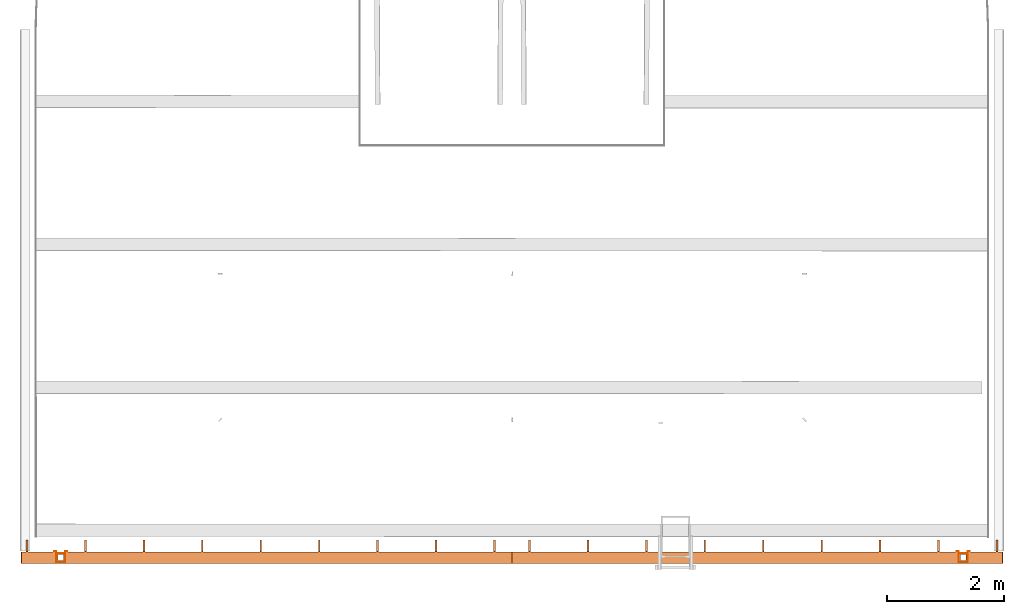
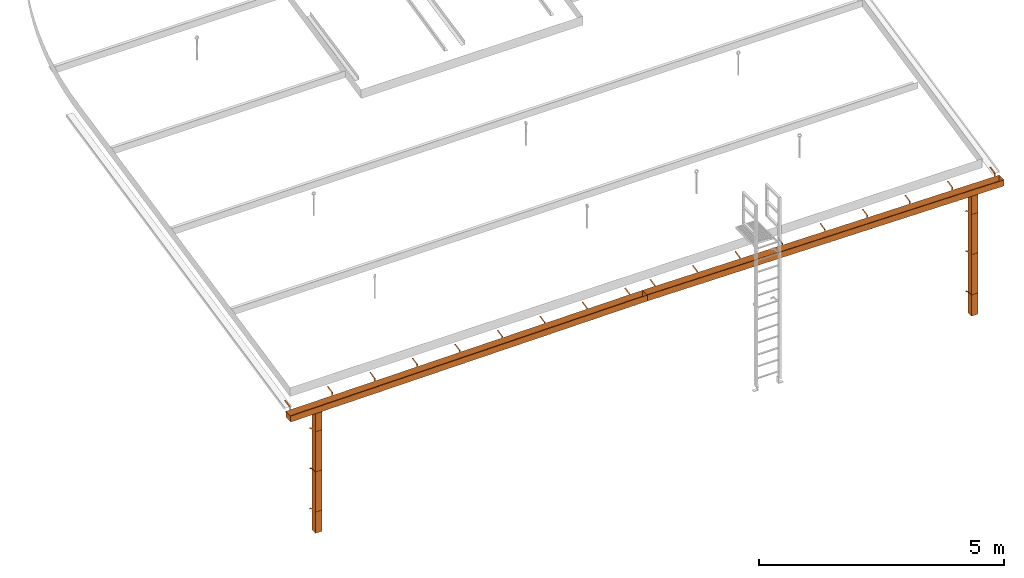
# One storey, part 7 of 7: 4 proxies.
"""IFC4 building model written with IfcOpenShell, lengths in millimetres."""

from ifc_helpers import new_model, entity, si_unit, converted_unit, derived_unit, direction, frame, origin_with_axes, place, context, subcontext, project, spatial, polygons, type_object, element, save


model = new_model("IFC4")

# Units and contexts
model_context = context("Model", 3, precision=0.01, world=origin_with_axes(), true_north=direction((0.0, 1.0)))
body_context = subcontext(model_context, "Body", "Model", "MODEL_VIEW")
ifc_project = project(units=[si_unit("LENGTHUNIT", "METRE", prefix="MILLI"), si_unit("AREAUNIT", "SQUARE_METRE"), si_unit("VOLUMEUNIT", "CUBIC_METRE"), converted_unit("PLANEANGLEUNIT", "DEGREE", entity("IfcPlaneAngleMeasure", 0.0174532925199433), si_unit("PLANEANGLEUNIT", "RADIAN"), dimensions=[0, 0, 0, 0, 0, 0, 0]), converted_unit("TIMEUNIT", "Year", entity("IfcTimeMeasure", 31557600.0), si_unit("TIMEUNIT", "SECOND"), dimensions=[0, 0, 1, 0, 0, 0, 0]), si_unit("MASSUNIT", "GRAM", prefix="KILO"), si_unit("THERMODYNAMICTEMPERATUREUNIT", "DEGREE_CELSIUS"), si_unit("LUMINOUSINTENSITYUNIT", "LUMEN"), si_unit("ENERGYUNIT", "JOULE", prefix="MEGA"), derived_unit("THERMALCONDUCTANCEUNIT", [(si_unit("POWERUNIT", "WATT"), 1), (si_unit("LENGTHUNIT", "METRE"), -1), (si_unit("THERMODYNAMICTEMPERATUREUNIT", "KELVIN"), -1)]), derived_unit("SPECIFICHEATCAPACITYUNIT", [(si_unit("ENERGYUNIT", "JOULE"), 1), (si_unit("MASSUNIT", "GRAM", prefix="KILO"), -1), (si_unit("THERMODYNAMICTEMPERATUREUNIT", "KELVIN"), -1)]), derived_unit("MASSDENSITYUNIT", [(si_unit("MASSUNIT", "GRAM", prefix="KILO"), 1), (si_unit("VOLUMEUNIT", "CUBIC_METRE"), -1)])], contexts=[model_context])

# Site, building, storey
site_placement = place(None, origin_with_axes())
site = spatial("IfcSite", under=ifc_project, at=site_placement, Name="Exteriér", CompositionType="ELEMENT")
building_placement = place(site_placement, origin_with_axes())
building = spatial("IfcBuilding", under=site, at=building_placement, Name="Univerzitní lezecké centrum", CompositionType="ELEMENT")
storey_placement = place(building_placement, frame((0.0, 0.0, 12800.0), z_axis=(0.0, 0.0, 1.0), x_axis=(1.0, 0.0, 0.0)))
storey = spatial("IfcBuildingStorey", under=building, at=storey_placement, Name="Střecha", CompositionType="ELEMENT", Elevation=12800.0)

# Proxies
building_element_proxy_type_1 = type_object("IfcBuildingElementProxyType", Name="Okap 27", PredefinedType="NOTDEFINED")
proxy_1_placement = place(storey_placement, frame((2449.851648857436, -609.9999999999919, 7.154921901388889), z_axis=(0.0, 0.0, 1.0), x_axis=(1.0, 0.0, 0.0)))
element("IfcBuildingElementProxy", 1, at=proxy_1_placement, inside=storey, type_object=building_element_proxy_type_1, Name="KV07", PredefinedType="NOTDEFINED", context=body_context, shape_type="Tessellation", body=[
    polygons([(-1.308980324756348, 100.0, -149.9942884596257), (-1.308980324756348, -100.0, -149.9942884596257), (8398.691069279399, -99.9999999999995, -223.2999783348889), (8398.691069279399, 100.0000000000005, -223.2999783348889), (7773.395021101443, 50.0, -217.843102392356), (7773.395021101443, -50.0, -217.843102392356), (7673.398828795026, -50.0, -216.9704488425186), (7673.398828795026, 50.0, -216.9704488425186), (0.0, -100.0, 0.0), (8400.000049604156, -99.9999999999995, -73.30568987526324), (8400.000049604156, 100.0000000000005, -73.30568987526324), (0.0, 100.0, 0.0)], [[[1, 2, 3, 4], [5, 6, 7, 8]], [[3, 2, 9, 10]], [[11, 12, 1, 4]]], closed=False),
    polygons([(285.0, -104.0, -0.4871573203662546), (285.0, -104.0, -154.7546751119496), (315.0, -104.0, -154.7546751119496), (314.9999999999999, -104.0, -0.4871573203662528), (285.0, 104.0, -154.7546751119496), (315.0, 104.0, -154.7546751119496), (285.0, 104.0, -0.4871573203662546), (315.0, 104.0, -0.4871573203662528)], [[[1, 2, 3, 4]], [[2, 5, 6, 3]], [[5, 7, 8, 6]]], closed=False),
    polygons([(285.0, 104.0, -0.4871573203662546), (285.0, 104.0, 2.130903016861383), (314.9999999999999, 104.0, 2.130903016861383), (314.9999999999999, 104.0, -0.4871573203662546)], [[[1, 2, 3, 4]]], closed=False),
    polygons([(285.0, 104.0, 2.130903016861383), (285.0, 299.6295201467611, 43.71324118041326), (314.9999999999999, 299.6295201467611, 43.71324118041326), (314.9999999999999, 104.0, 2.130903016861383)], [[[1, 2, 3, 4]]], closed=False),
    polygons([(1285.0, -104.0, -9.214025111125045), (1285.0, -104.0, -163.4815429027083), (1315.0, -104.0, -163.4815429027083), (1315.0, -104.0, -9.214025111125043), (1285.0, 104.0, -163.4815429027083), (1315.0, 104.0, -163.4815429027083), (1285.0, 104.0, -9.214025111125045), (1315.0, 104.0, -9.214025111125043)], [[[1, 2, 3, 4]], [[2, 5, 6, 3]], [[5, 7, 8, 6]]], closed=False),
    polygons([(1285.0, 104.0, -9.214025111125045), (1285.0, 104.0, 2.130903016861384), (1315.0, 104.0, 2.130903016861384), (1315.0, 104.0, -9.214025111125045)], [[[1, 2, 3, 4]]], closed=False),
    polygons([(1285.0, 104.0, 2.130903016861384), (1285.0, 299.6295201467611, 43.71324118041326), (1315.0, 299.6295201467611, 43.71324118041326), (1315.0, 104.0, 2.130903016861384)], [[[1, 2, 3, 4]]], closed=False),
    polygons([(2285.0, -104.0, -17.94089290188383), (2285.0, -104.0, -172.2084106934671), (2315.0, -104.0, -172.2084106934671), (2315.0, -104.0, -17.94089290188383), (2285.0, 104.0, -172.2084106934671), (2315.0, 104.0, -172.2084106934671), (2285.0, 104.0, -17.94089290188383), (2315.0, 104.0, -17.94089290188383)], [[[1, 2, 3, 4]], [[2, 5, 6, 3]], [[5, 7, 8, 6]]], closed=False),
    polygons([(2285.0, 104.0, -17.94089290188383), (2285.0, 104.0, 2.130903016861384), (2315.0, 104.0, 2.130903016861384), (2315.0, 104.0, -17.94089290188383)], [[[1, 2, 3, 4]]], closed=False),
    polygons([(2285.0, 104.0, 2.130903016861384), (2285.0, 299.6295201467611, 43.71324118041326), (2315.0, 299.6295201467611, 43.71324118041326), (2315.0, 104.0, 2.130903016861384)], [[[1, 2, 3, 4]]], closed=False),
    polygons([(3285.0, -104.0, -26.66776069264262), (3285.0, -104.0, -180.9352784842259), (3315.0, -104.0, -180.9352784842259), (3315.0, -104.0, -26.66776069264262), (3285.0, 104.0, -180.9352784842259), (3315.0, 104.0, -180.9352784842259), (3285.0, 104.0, -26.66776069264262), (3315.0, 104.0, -26.66776069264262)], [[[1, 2, 3, 4]], [[2, 5, 6, 3]], [[5, 7, 8, 6]]], closed=False),
    polygons([(3285.0, 104.0, -26.66776069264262), (3285.0, 104.0, 2.130903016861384), (3315.0, 104.0, 2.130903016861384), (3315.0, 104.0, -26.66776069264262)], [[[1, 2, 3, 4]]], closed=False),
    polygons([(3285.0, 104.0, 2.130903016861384), (3285.0, 299.6295201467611, 43.71324118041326), (3315.0, 299.6295201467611, 43.71324118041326), (3315.0, 104.0, 2.130903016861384)], [[[1, 2, 3, 4]]], closed=False),
    polygons([(4285.0, -104.0, -35.39462848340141), (4285.0, -104.0, -189.6621462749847), (4315.0, -104.0, -189.6621462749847), (4315.0, -104.0, -35.39462848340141), (4285.0, 104.0, -189.6621462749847), (4315.0, 104.0, -189.6621462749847), (4285.0, 104.0, -35.39462848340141), (4315.0, 104.0, -35.39462848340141)], [[[1, 2, 3, 4]], [[2, 5, 6, 3]], [[5, 7, 8, 6]]], closed=False),
    polygons([(4285.0, 104.0, -35.39462848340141), (4285.0, 104.0, 2.13090301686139), (4315.0, 104.0, 2.13090301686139), (4315.0, 104.0, -35.39462848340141)], [[[1, 2, 3, 4]]], closed=False),
    polygons([(4285.0, 104.0, 2.13090301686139), (4285.0, 299.6295201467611, 43.71324118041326), (4315.0, 299.6295201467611, 43.71324118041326), (4315.0, 104.0, 2.13090301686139)], [[[1, 2, 3, 4]]], closed=False),
    polygons([(5285.0, -104.0, -44.1214962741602), (5285.0, -104.0, -198.3890140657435), (5315.0, -104.0, -198.3890140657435), (5315.0, -104.0, -44.1214962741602), (5285.0, 104.0, -198.3890140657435), (5315.0, 104.0, -198.3890140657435), (5285.0, 104.0, -44.1214962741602), (5315.0, 104.0, -44.1214962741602)], [[[1, 2, 3, 4]], [[2, 5, 6, 3]], [[5, 7, 8, 6]]], closed=False),
    polygons([(5285.0, 104.0, -44.1214962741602), (5285.0, 104.0, 2.13090301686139), (5315.0, 104.0, 2.13090301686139), (5315.0, 104.0, -44.1214962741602)], [[[1, 2, 3, 4]]], closed=False),
    polygons([(5285.0, 104.0, 2.13090301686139), (5285.0, 299.6295201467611, 43.71324118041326), (5315.0, 299.6295201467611, 43.71324118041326), (5315.0, 104.0, 2.13090301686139)], [[[1, 2, 3, 4]]], closed=False),
    polygons([(6285.0, -104.0, -52.84836406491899), (6285.0, -104.0, -207.1158818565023), (6315.0, -104.0, -207.1158818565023), (6315.0, -104.0, -52.84836406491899), (6285.0, 104.0, -207.1158818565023), (6315.0, 104.0, -207.1158818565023), (6285.0, 104.0, -52.84836406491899), (6315.0, 104.0, -52.84836406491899)], [[[1, 2, 3, 4]], [[2, 5, 6, 3]], [[5, 7, 8, 6]]], closed=False),
    polygons([(6285.0, 104.0, -52.84836406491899), (6285.0, 104.0, 2.13090301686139), (6315.0, 104.0, 2.13090301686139), (6315.0, 104.0, -52.84836406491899)], [[[1, 2, 3, 4]]], closed=False),
    polygons([(6285.0, 104.0, 2.13090301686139), (6285.0, 299.6295201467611, 43.71324118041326), (6315.0, 299.6295201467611, 43.71324118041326), (6315.0, 104.0, 2.13090301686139)], [[[1, 2, 3, 4]]], closed=False),
    polygons([(7285.0, -104.0, -61.57523185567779), (7285.0, -104.0, -215.8427496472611), (7315.0, -104.0, -215.8427496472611), (7315.0, -104.0, -61.57523185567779), (7285.0, 104.0, -215.8427496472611), (7315.0, 104.0, -215.8427496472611), (7285.0, 104.0, -61.57523185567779), (7315.0, 104.0, -61.57523185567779)], [[[1, 2, 3, 4]], [[2, 5, 6, 3]], [[5, 7, 8, 6]]], closed=False),
    polygons([(7285.0, 104.0, -61.57523185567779), (7285.0, 104.0, 2.130903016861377), (7315.0, 104.0, 2.130903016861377), (7315.0, 104.0, -61.57523185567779)], [[[1, 2, 3, 4]]], closed=False),
    polygons([(7285.0, 104.0, 2.130903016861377), (7285.0, 299.6295201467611, 43.71324118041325), (7315.0, 299.6295201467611, 43.71324118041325), (7315.0, 104.0, 2.130903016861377)], [[[1, 2, 3, 4]]], closed=False),
    polygons([(8285.0, -104.0, -70.30209964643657), (8285.0, -104.0, -224.5696174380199), (8315.0, -104.0, -224.5696174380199), (8315.0, -104.0, -70.30209964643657), (8285.0, 104.0, -224.5696174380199), (8315.0, 104.0, -224.5696174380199), (8285.0, 104.0, -70.30209964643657), (8315.0, 104.0, -70.30209964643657)], [[[1, 2, 3, 4]], [[2, 5, 6, 3]], [[5, 7, 8, 6]]], closed=False),
    polygons([(8285.0, 104.0, -70.30209964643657), (8285.0, 104.0, 2.13090301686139), (8315.0, 104.0, 2.13090301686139), (8315.0, 104.0, -70.30209964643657)], [[[1, 2, 3, 4]]], closed=False),
    polygons([(8285.0, 104.0, 2.13090301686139), (8285.0, 299.6295201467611, 43.71324118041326), (8315.0, 299.6295201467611, 43.71324118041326), (8315.0, 104.0, 2.13090301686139)], [[[1, 2, 3, 4]]], closed=False),
    polygons([(0.0, 100.0, 0.0), (-1.308980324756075, 100.0, -149.9942884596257), (-1.308980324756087, -100.0, -149.9942884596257), (0.0, -100.0, 0.0)], [[[1, 2, 3, 4]]], closed=False),
    polygons([(8400.000049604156, 100.0, -73.30568987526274), (8398.691069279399, 100.0, -223.2999783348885), (8398.691069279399, -100.0, -223.2999783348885), (8400.000049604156, -100.0, -73.30568987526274)], [[[1, 2, 3, 4]]], closed=False),
])
proxy_2_placement = place(storey_placement, frame((2449.851648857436, -609.9999999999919, 7.154921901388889), z_axis=(0.0, 0.0, 1.0), x_axis=(1.0, 0.0, 0.0)))
element("IfcBuildingElementProxy", 2, at=proxy_2_placement, inside=storey, type_object=building_element_proxy_type_1, Name="KV07", PredefinedType="NOTDEFINED", context=body_context, shape_type="Tessellation", body=[
    polygons([(1.308980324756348, 100.0, -149.9942884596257), (-8398.691069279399, 100.0000000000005, -223.2999783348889), (-8398.691069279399, -99.9999999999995, -223.2999783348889), (1.308980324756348, -100.0, -149.9942884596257), (-7773.395021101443, 50.0, -217.843102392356), (-7673.398828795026, 50.0, -216.9704488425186), (-7673.398828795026, -50.0, -216.9704488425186), (-7773.395021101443, -50.0, -217.843102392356), (-8400.000049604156, 100.0000000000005, -73.30568987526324), (0.0, 100.0, 0.0), (-8400.000049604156, -99.9999999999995, -73.30568987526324), (0.0, -100.0, 0.0)], [[[1, 2, 3, 4], [5, 6, 7, 8]], [[9, 2, 1, 10]], [[3, 11, 12, 4]]], closed=False),
    polygons([(-285.0, -104.0, -0.4871573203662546), (-314.9999999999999, -104.0, -0.4871573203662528), (-315.0, -104.0, -154.7546751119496), (-285.0, -104.0, -154.7546751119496), (-315.0, 104.0, -154.7546751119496), (-285.0, 104.0, -154.7546751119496), (-315.0, 104.0, -0.4871573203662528), (-285.0, 104.0, -0.4871573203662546)], [[[1, 2, 3, 4]], [[4, 3, 5, 6]], [[6, 5, 7, 8]]], closed=False),
    polygons([(-285.0, 104.0, -0.4871573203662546), (-314.9999999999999, 104.0, -0.4871573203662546), (-314.9999999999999, 104.0, 2.130903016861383), (-285.0, 104.0, 2.130903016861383)], [[[1, 2, 3, 4]]], closed=False),
    polygons([(-285.0, 104.0, 2.130903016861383), (-314.9999999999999, 104.0, 2.130903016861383), (-314.9999999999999, 299.6295201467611, 43.71324118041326), (-285.0, 299.6295201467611, 43.71324118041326)], [[[1, 2, 3, 4]]], closed=False),
    polygons([(-1285.0, -104.0, -9.214025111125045), (-1315.0, -104.0, -9.214025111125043), (-1315.0, -104.0, -163.4815429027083), (-1285.0, -104.0, -163.4815429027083), (-1315.0, 104.0, -163.4815429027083), (-1285.0, 104.0, -163.4815429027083), (-1315.0, 104.0, -9.214025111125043), (-1285.0, 104.0, -9.214025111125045)], [[[1, 2, 3, 4]], [[4, 3, 5, 6]], [[6, 5, 7, 8]]], closed=False),
    polygons([(-1285.0, 104.0, -9.214025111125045), (-1315.0, 104.0, -9.214025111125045), (-1315.0, 104.0, 2.130903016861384), (-1285.0, 104.0, 2.130903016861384)], [[[1, 2, 3, 4]]], closed=False),
    polygons([(-1285.0, 104.0, 2.130903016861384), (-1315.0, 104.0, 2.130903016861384), (-1315.0, 299.6295201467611, 43.71324118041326), (-1285.0, 299.6295201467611, 43.71324118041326)], [[[1, 2, 3, 4]]], closed=False),
    polygons([(-2285.0, -104.0, -17.94089290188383), (-2315.0, -104.0, -17.94089290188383), (-2315.0, -104.0, -172.2084106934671), (-2285.0, -104.0, -172.2084106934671), (-2315.0, 104.0, -172.2084106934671), (-2285.0, 104.0, -172.2084106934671), (-2315.0, 104.0, -17.94089290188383), (-2285.0, 104.0, -17.94089290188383)], [[[1, 2, 3, 4]], [[4, 3, 5, 6]], [[6, 5, 7, 8]]], closed=False),
    polygons([(-2285.0, 104.0, -17.94089290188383), (-2315.0, 104.0, -17.94089290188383), (-2315.0, 104.0, 2.130903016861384), (-2285.0, 104.0, 2.130903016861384)], [[[1, 2, 3, 4]]], closed=False),
    polygons([(-2285.0, 104.0, 2.130903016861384), (-2315.0, 104.0, 2.130903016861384), (-2315.0, 299.6295201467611, 43.71324118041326), (-2285.0, 299.6295201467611, 43.71324118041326)], [[[1, 2, 3, 4]]], closed=False),
    polygons([(-3285.0, -104.0, -26.66776069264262), (-3315.0, -104.0, -26.66776069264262), (-3315.0, -104.0, -180.9352784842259), (-3285.0, -104.0, -180.9352784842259), (-3315.0, 104.0, -180.9352784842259), (-3285.0, 104.0, -180.9352784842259), (-3315.0, 104.0, -26.66776069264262), (-3285.0, 104.0, -26.66776069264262)], [[[1, 2, 3, 4]], [[4, 3, 5, 6]], [[6, 5, 7, 8]]], closed=False),
    polygons([(-3285.0, 104.0, -26.66776069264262), (-3315.0, 104.0, -26.66776069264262), (-3315.0, 104.0, 2.130903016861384), (-3285.0, 104.0, 2.130903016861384)], [[[1, 2, 3, 4]]], closed=False),
    polygons([(-3285.0, 104.0, 2.130903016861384), (-3315.0, 104.0, 2.130903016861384), (-3315.0, 299.6295201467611, 43.71324118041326), (-3285.0, 299.6295201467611, 43.71324118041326)], [[[1, 2, 3, 4]]], closed=False),
    polygons([(-4285.0, -104.0, -35.39462848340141), (-4315.0, -104.0, -35.39462848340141), (-4315.0, -104.0, -189.6621462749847), (-4285.0, -104.0, -189.6621462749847), (-4315.0, 104.0, -189.6621462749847), (-4285.0, 104.0, -189.6621462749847), (-4315.0, 104.0, -35.39462848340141), (-4285.0, 104.0, -35.39462848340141)], [[[1, 2, 3, 4]], [[4, 3, 5, 6]], [[6, 5, 7, 8]]], closed=False),
    polygons([(-4285.0, 104.0, -35.39462848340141), (-4315.0, 104.0, -35.39462848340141), (-4315.0, 104.0, 2.13090301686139), (-4285.0, 104.0, 2.13090301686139)], [[[1, 2, 3, 4]]], closed=False),
    polygons([(-4285.0, 104.0, 2.13090301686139), (-4315.0, 104.0, 2.13090301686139), (-4315.0, 299.6295201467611, 43.71324118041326), (-4285.0, 299.6295201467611, 43.71324118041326)], [[[1, 2, 3, 4]]], closed=False),
    polygons([(-5285.0, -104.0, -44.1214962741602), (-5315.0, -104.0, -44.1214962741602), (-5315.0, -104.0, -198.3890140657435), (-5285.0, -104.0, -198.3890140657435), (-5315.0, 104.0, -198.3890140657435), (-5285.0, 104.0, -198.3890140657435), (-5315.0, 104.0, -44.1214962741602), (-5285.0, 104.0, -44.1214962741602)], [[[1, 2, 3, 4]], [[4, 3, 5, 6]], [[6, 5, 7, 8]]], closed=False),
    polygons([(-5285.0, 104.0, -44.1214962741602), (-5315.0, 104.0, -44.1214962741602), (-5315.0, 104.0, 2.13090301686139), (-5285.0, 104.0, 2.13090301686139)], [[[1, 2, 3, 4]]], closed=False),
    polygons([(-5285.0, 104.0, 2.13090301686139), (-5315.0, 104.0, 2.13090301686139), (-5315.0, 299.6295201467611, 43.71324118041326), (-5285.0, 299.6295201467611, 43.71324118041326)], [[[1, 2, 3, 4]]], closed=False),
    polygons([(-6285.0, -104.0, -52.84836406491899), (-6315.0, -104.0, -52.84836406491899), (-6315.0, -104.0, -207.1158818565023), (-6285.0, -104.0, -207.1158818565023), (-6315.0, 104.0, -207.1158818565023), (-6285.0, 104.0, -207.1158818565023), (-6315.0, 104.0, -52.84836406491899), (-6285.0, 104.0, -52.84836406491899)], [[[1, 2, 3, 4]], [[4, 3, 5, 6]], [[6, 5, 7, 8]]], closed=False),
    polygons([(-6285.0, 104.0, -52.84836406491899), (-6315.0, 104.0, -52.84836406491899), (-6315.0, 104.0, 2.13090301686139), (-6285.0, 104.0, 2.13090301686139)], [[[1, 2, 3, 4]]], closed=False),
    polygons([(-6285.0, 104.0, 2.13090301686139), (-6315.0, 104.0, 2.13090301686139), (-6315.0, 299.6295201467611, 43.71324118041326), (-6285.0, 299.6295201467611, 43.71324118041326)], [[[1, 2, 3, 4]]], closed=False),
    polygons([(-7285.0, -104.0, -61.57523185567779), (-7315.0, -104.0, -61.57523185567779), (-7315.0, -104.0, -215.8427496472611), (-7285.0, -104.0, -215.8427496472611), (-7315.0, 104.0, -215.8427496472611), (-7285.0, 104.0, -215.8427496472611), (-7315.0, 104.0, -61.57523185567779), (-7285.0, 104.0, -61.57523185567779)], [[[1, 2, 3, 4]], [[4, 3, 5, 6]], [[6, 5, 7, 8]]], closed=False),
    polygons([(-7285.0, 104.0, -61.57523185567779), (-7315.0, 104.0, -61.57523185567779), (-7315.0, 104.0, 2.130903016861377), (-7285.0, 104.0, 2.130903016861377)], [[[1, 2, 3, 4]]], closed=False),
    polygons([(-7285.0, 104.0, 2.130903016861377), (-7315.0, 104.0, 2.130903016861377), (-7315.0, 299.6295201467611, 43.71324118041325), (-7285.0, 299.6295201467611, 43.71324118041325)], [[[1, 2, 3, 4]]], closed=False),
    polygons([(-8285.0, -104.0, -70.30209964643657), (-8315.0, -104.0, -70.30209964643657), (-8315.0, -104.0, -224.5696174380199), (-8285.0, -104.0, -224.5696174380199), (-8315.0, 104.0, -224.5696174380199), (-8285.0, 104.0, -224.5696174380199), (-8315.0, 104.0, -70.30209964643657), (-8285.0, 104.0, -70.30209964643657)], [[[1, 2, 3, 4]], [[4, 3, 5, 6]], [[6, 5, 7, 8]]], closed=False),
    polygons([(-8285.0, 104.0, -70.30209964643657), (-8315.0, 104.0, -70.30209964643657), (-8315.0, 104.0, 2.13090301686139), (-8285.0, 104.0, 2.13090301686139)], [[[1, 2, 3, 4]]], closed=False),
    polygons([(-8285.0, 104.0, 2.13090301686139), (-8315.0, 104.0, 2.13090301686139), (-8315.0, 299.6295201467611, 43.71324118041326), (-8285.0, 299.6295201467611, 43.71324118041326)], [[[1, 2, 3, 4]]], closed=False),
    polygons([(0.0, 100.0, 0.0), (0.0, -100.0, 0.0), (1.308980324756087, -100.0, -149.9942884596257), (1.308980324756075, 100.0, -149.9942884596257)], [[[1, 2, 3, 4]]], closed=False),
    polygons([(-8400.000049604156, 100.0, -73.30568987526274), (-8400.000049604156, -100.0, -73.30568987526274), (-8398.691069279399, -100.0, -223.2999783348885), (-8398.691069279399, 100.0, -223.2999783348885)], [[[1, 2, 3, 4]]], closed=False),
])
building_element_proxy_type_2 = type_object("IfcBuildingElementProxyType", Name="Okapová roura 27", PredefinedType="NOTDEFINED")
proxy_3_placement = place(storey_placement, frame((-5274.199459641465, -574.9999999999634, -3211.0), z_axis=(0.0, 0.0, 1.0), x_axis=(1.0, 0.0, 0.0)))
element("IfcBuildingElementProxy", 3, at=proxy_3_placement, inside=storey, type_object=building_element_proxy_type_2, Name="KV06", PredefinedType="NOTDEFINED", context=body_context, shape_type="Tessellation", body=[
    polygons([(75.0, -110.0, 3000.0), (75.0, -110.0, 0.0), (75.0, 39.99999999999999, 0.0), (75.0, 39.99999999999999, 3000.0), (-75.0, -110.0, 3000.0), (-75.0, -110.0, 0.0), (-75.0, 39.99999999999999, 0.0), (-75.0, 39.99999999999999, 3000.0)], [[[1, 2, 3, 4]], [[5, 6, 2, 1]], [[4, 3, 7, 8]], [[8, 7, 6, 5]]], closed=False),
    polygons([(115.0, 72.89999999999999, 500.0), (115.0, 72.89999999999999, 530.0), (77.0, 72.89999999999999, 530.0), (77.0, 72.89999999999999, 500.0), (115.0, 74.89999999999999, 500.0), (115.0, 74.89999999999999, 530.0), (75.2, 74.89999999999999, 530.0), (75.2, -110.3, 530.0), (-75.2, -110.3, 530.0), (-75.2, 74.89999999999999, 530.0), (-115.0, 74.89999999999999, 530.0), (-115.0, 72.89999999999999, 530.0), (-77.0, 72.89999999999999, 530.0), (-77.0, -112.1, 530.0), (77.0, -112.1, 530.0), (77.0, -112.1, 500.0), (-77.0, -112.1, 500.0), (-77.0, 72.89999999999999, 500.0), (-115.0, 72.89999999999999, 500.0), (-115.0, 74.89999999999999, 500.0), (-75.2, 74.89999999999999, 500.0), (-75.2, -110.3, 500.0), (75.2, -110.3, 500.0), (75.2, 74.89999999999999, 500.0)], [[[1, 2, 3, 4]], [[5, 6, 2, 1]], [[2, 6, 7, 8, 9, 10, 11, 12, 13, 14, 15, 3]], [[4, 3, 15, 16]], [[1, 4, 16, 17, 18, 19, 20, 21, 22, 23, 24, 5]], [[24, 7, 6, 5]], [[23, 8, 7, 24]], [[22, 9, 8, 23]], [[21, 10, 9, 22]], [[20, 11, 10, 21]], [[19, 12, 11, 20]], [[18, 13, 12, 19]], [[17, 14, 13, 18]], [[16, 15, 14, 17]]], closed=True),
    polygons([(115.0, 72.89999999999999, 1500.0), (115.0, 72.89999999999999, 1530.0), (77.0, 72.89999999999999, 1530.0), (77.0, 72.89999999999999, 1500.0), (115.0, 74.89999999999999, 1500.0), (115.0, 74.89999999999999, 1530.0), (75.2, 74.89999999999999, 1530.0), (75.2, -110.3, 1530.0), (-75.2, -110.3, 1530.0), (-75.2, 74.89999999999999, 1530.0), (-115.0, 74.89999999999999, 1530.0), (-115.0, 72.89999999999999, 1530.0), (-77.0, 72.89999999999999, 1530.0), (-77.0, -112.1, 1530.0), (77.0, -112.1, 1530.0), (77.0, -112.1, 1500.0), (-77.0, -112.1, 1500.0), (-77.0, 72.89999999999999, 1500.0), (-115.0, 72.89999999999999, 1500.0), (-115.0, 74.89999999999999, 1500.0), (-75.2, 74.89999999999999, 1500.0), (-75.2, -110.3, 1500.0), (75.2, -110.3, 1500.0), (75.2, 74.89999999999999, 1500.0)], [[[1, 2, 3, 4]], [[5, 6, 2, 1]], [[2, 6, 7, 8, 9, 10, 11, 12, 13, 14, 15, 3]], [[4, 3, 15, 16]], [[1, 4, 16, 17, 18, 19, 20, 21, 22, 23, 24, 5]], [[24, 7, 6, 5]], [[23, 8, 7, 24]], [[22, 9, 8, 23]], [[21, 10, 9, 22]], [[20, 11, 10, 21]], [[19, 12, 11, 20]], [[18, 13, 12, 19]], [[17, 14, 13, 18]], [[16, 15, 14, 17]]], closed=True),
    polygons([(115.0, 72.89999999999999, 2500.0), (115.0, 72.89999999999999, 2530.0), (77.0, 72.89999999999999, 2530.0), (77.0, 72.89999999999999, 2500.0), (115.0, 74.89999999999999, 2500.0), (115.0, 74.89999999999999, 2530.0), (75.2, 74.89999999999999, 2530.0), (75.2, -110.3, 2530.0), (-75.2, -110.3, 2530.0), (-75.2, 74.89999999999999, 2530.0), (-115.0, 74.89999999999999, 2530.0), (-115.0, 72.89999999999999, 2530.0), (-77.0, 72.89999999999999, 2530.0), (-77.0, -112.1, 2530.0), (77.0, -112.1, 2530.0), (77.0, -112.1, 2500.0), (-77.0, -112.1, 2500.0), (-77.0, 72.89999999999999, 2500.0), (-115.0, 72.89999999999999, 2500.0), (-115.0, 74.89999999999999, 2500.0), (-75.2, 74.89999999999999, 2500.0), (-75.2, -110.3, 2500.0), (75.2, -110.3, 2500.0), (75.2, 74.89999999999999, 2500.0)], [[[1, 2, 3, 4]], [[5, 6, 2, 1]], [[2, 6, 7, 8, 9, 10, 11, 12, 13, 14, 15, 3]], [[4, 3, 15, 16]], [[1, 4, 16, 17, 18, 19, 20, 21, 22, 23, 24, 5]], [[24, 7, 6, 5]], [[23, 8, 7, 24]], [[22, 9, 8, 23]], [[21, 10, 9, 22]], [[20, 11, 10, 21]], [[19, 12, 11, 20]], [[18, 13, 12, 19]], [[17, 14, 13, 18]], [[16, 15, 14, 17]]], closed=True),
])
proxy_4_placement = place(storey_placement, frame((10173.56842006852, -575.0000000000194, -3212.206781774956), z_axis=(0.0, 0.0, 1.0), x_axis=(1.0, 0.0, 0.0)))
element("IfcBuildingElementProxy", 4, at=proxy_4_placement, inside=storey, type_object=building_element_proxy_type_2, Name="KV06", PredefinedType="NOTDEFINED", context=body_context, shape_type="Tessellation", body=[
    polygons([(-75.0, -110.0, 3000.0), (-75.0, 39.99999999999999, 3000.0), (-75.0, 39.99999999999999, 0.0), (-75.0, -110.0, 0.0), (75.0, 39.99999999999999, 3000.0), (75.0, 39.99999999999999, 0.0), (75.0, -110.0, 3000.0), (75.0, -110.0, 0.0)], [[[1, 2, 3, 4]], [[2, 5, 6, 3]], [[7, 1, 4, 8]], [[5, 7, 8, 6]]], closed=False),
    polygons([(-115.0, 72.89999999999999, 500.0), (-77.0, 72.89999999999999, 500.0), (-77.0, 72.89999999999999, 530.0), (-115.0, 72.89999999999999, 530.0), (-115.0, 74.89999999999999, 500.0), (-75.2, 74.89999999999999, 500.0), (-75.2, -110.3, 500.0), (75.2, -110.3, 500.0), (75.2, 74.89999999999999, 500.0), (115.0, 74.89999999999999, 500.0), (115.0, 72.89999999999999, 500.0), (77.0, 72.89999999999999, 500.0), (77.0, -112.1, 500.0), (-77.0, -112.1, 500.0), (-77.0, -112.1, 530.0), (77.0, -112.1, 530.0), (77.0, 72.89999999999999, 530.0), (115.0, 72.89999999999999, 530.0), (115.0, 74.89999999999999, 530.0), (75.2, 74.89999999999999, 530.0), (75.2, -110.3, 530.0), (-75.2, -110.3, 530.0), (-75.2, 74.89999999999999, 530.0), (-115.0, 74.89999999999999, 530.0)], [[[1, 2, 3, 4]], [[1, 5, 6, 7, 8, 9, 10, 11, 12, 13, 14, 2]], [[2, 14, 15, 3]], [[4, 3, 15, 16, 17, 18, 19, 20, 21, 22, 23, 24]], [[5, 1, 4, 24]], [[6, 5, 24, 23]], [[7, 6, 23, 22]], [[8, 7, 22, 21]], [[9, 8, 21, 20]], [[10, 9, 20, 19]], [[11, 10, 19, 18]], [[12, 11, 18, 17]], [[13, 12, 17, 16]], [[14, 13, 16, 15]]], closed=True),
    polygons([(-115.0, 72.89999999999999, 1500.0), (-77.0, 72.89999999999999, 1500.0), (-77.0, 72.89999999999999, 1530.0), (-115.0, 72.89999999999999, 1530.0), (-115.0, 74.89999999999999, 1500.0), (-75.2, 74.89999999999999, 1500.0), (-75.2, -110.3, 1500.0), (75.2, -110.3, 1500.0), (75.2, 74.89999999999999, 1500.0), (115.0, 74.89999999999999, 1500.0), (115.0, 72.89999999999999, 1500.0), (77.0, 72.89999999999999, 1500.0), (77.0, -112.1, 1500.0), (-77.0, -112.1, 1500.0), (-77.0, -112.1, 1530.0), (77.0, -112.1, 1530.0), (77.0, 72.89999999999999, 1530.0), (115.0, 72.89999999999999, 1530.0), (115.0, 74.89999999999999, 1530.0), (75.2, 74.89999999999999, 1530.0), (75.2, -110.3, 1530.0), (-75.2, -110.3, 1530.0), (-75.2, 74.89999999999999, 1530.0), (-115.0, 74.89999999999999, 1530.0)], [[[1, 2, 3, 4]], [[1, 5, 6, 7, 8, 9, 10, 11, 12, 13, 14, 2]], [[2, 14, 15, 3]], [[4, 3, 15, 16, 17, 18, 19, 20, 21, 22, 23, 24]], [[5, 1, 4, 24]], [[6, 5, 24, 23]], [[7, 6, 23, 22]], [[8, 7, 22, 21]], [[9, 8, 21, 20]], [[10, 9, 20, 19]], [[11, 10, 19, 18]], [[12, 11, 18, 17]], [[13, 12, 17, 16]], [[14, 13, 16, 15]]], closed=True),
    polygons([(-115.0, 72.89999999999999, 2500.0), (-77.0, 72.89999999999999, 2500.0), (-77.0, 72.89999999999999, 2530.0), (-115.0, 72.89999999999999, 2530.0), (-115.0, 74.89999999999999, 2500.0), (-75.2, 74.89999999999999, 2500.0), (-75.2, -110.3, 2500.0), (75.2, -110.3, 2500.0), (75.2, 74.89999999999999, 2500.0), (115.0, 74.89999999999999, 2500.0), (115.0, 72.89999999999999, 2500.0), (77.0, 72.89999999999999, 2500.0), (77.0, -112.1, 2500.0), (-77.0, -112.1, 2500.0), (-77.0, -112.1, 2530.0), (77.0, -112.1, 2530.0), (77.0, 72.89999999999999, 2530.0), (115.0, 72.89999999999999, 2530.0), (115.0, 74.89999999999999, 2530.0), (75.2, 74.89999999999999, 2530.0), (75.2, -110.3, 2530.0), (-75.2, -110.3, 2530.0), (-75.2, 74.89999999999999, 2530.0), (-115.0, 74.89999999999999, 2530.0)], [[[1, 2, 3, 4]], [[1, 5, 6, 7, 8, 9, 10, 11, 12, 13, 14, 2]], [[2, 14, 15, 3]], [[4, 3, 15, 16, 17, 18, 19, 20, 21, 22, 23, 24]], [[5, 1, 4, 24]], [[6, 5, 24, 23]], [[7, 6, 23, 22]], [[8, 7, 22, 21]], [[9, 8, 21, 20]], [[10, 9, 20, 19]], [[11, 10, 19, 18]], [[12, 11, 18, 17]], [[13, 12, 17, 16]], [[14, 13, 16, 15]]], closed=True),
])

save(model, "model.ifc")
